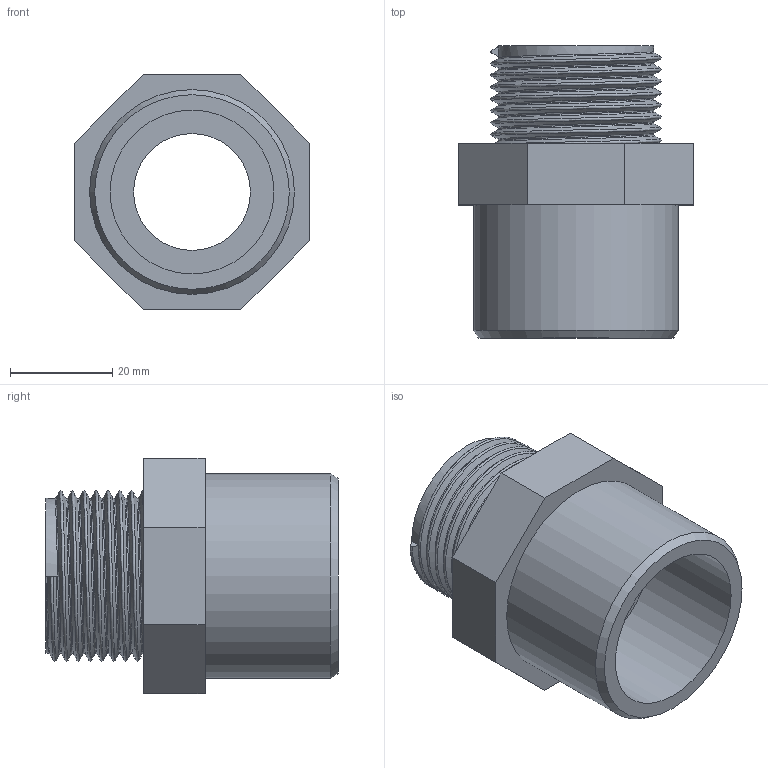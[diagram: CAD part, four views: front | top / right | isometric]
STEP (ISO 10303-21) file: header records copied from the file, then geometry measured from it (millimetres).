
FILE_DESCRIPTION(/* description */ ('PVC adattatore incollaggio-filettatura BSP maschio'),/* implementation_level */ '2;1');
FILE_NAME(/* name */ 'C:\Users\POLYPIPE\Desktop\DATASET INVENTOR\LIBRERIA EFFAST\RACCORDI 3DxWEB\RGR\3D_RGRAMG\3D_RGRAMG032D.stp',/* time_stamp */ '2018-01-19T17:35:28+01:00',/* author */ ('POLYPIPE'),/* organization */ ('Polypipe Italia s.r.l.'),/* preprocessor_version */ 'ST-DEVELOPER v16.1',/* originating_system */ 'Autodesk Inventor 2016',/* authorisation */ '');
FILE_SCHEMA (('CONFIG_CONTROL_DESIGN'));
Length unit declared in the file: millimetre
Products named in the file (1): 3D_RGRAMG
Bounding box: 46 x 57.1 x 46 mm (x, y, z)
Volume: 35748.5 mm3; surface area: 15603.9 mm2
Topology: 1 solids, 1 shells, 26 faces, 56 edges, 36 vertices
Faces by surface type: plane 15, cylinder 5, bspline 5, cone 1
Full cylindrical faces by diameter (mm): 22.8 x1, 23.8 x1, 30.291 x1, 32 x1, 40 x1
Entity records: 3695 total; most frequent: CARTESIAN_POINT 3142, ORIENTED_EDGE 102, DIRECTION 97, EDGE_CURVE 51, EDGE_LOOP 37, VERTEX_POINT 36, AXIS2_PLACEMENT_3D 35, LINE 27
